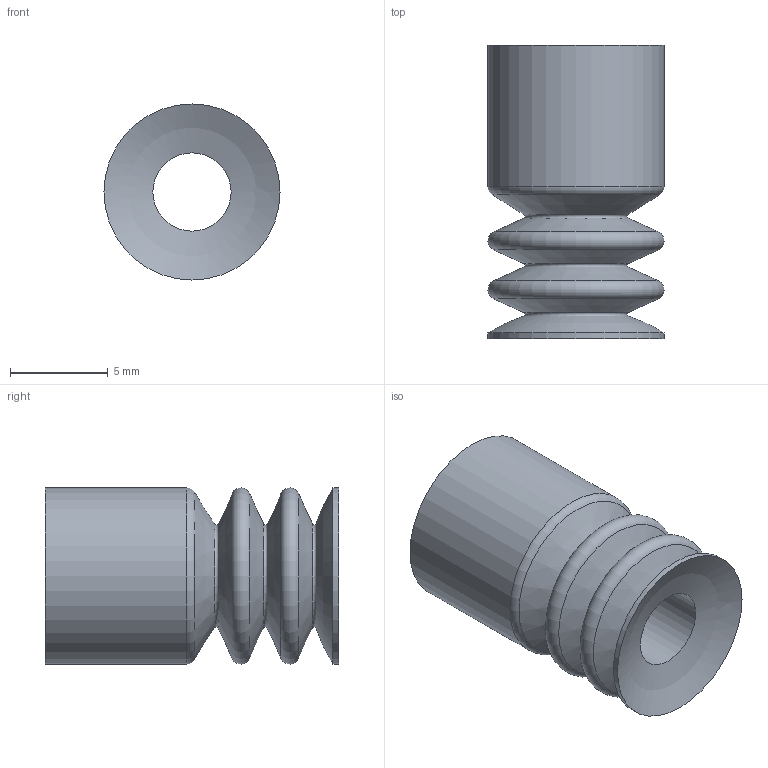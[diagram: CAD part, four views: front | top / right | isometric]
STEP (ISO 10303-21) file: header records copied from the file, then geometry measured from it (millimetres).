
FILE_DESCRIPTION(('STEP AP203'),'1');
FILE_NAME('_3D.stp','2025-02-13T07:32:59',(' '),(' '),'Spatial InterOp 3D',' ',' ');
FILE_SCHEMA(('CONFIG_CONTROL_DESIGN'));
Length unit declared in the file: millimetre
Products named in the file (1): 1
Bounding box: 9 x 15 x 9 mm (x, y, z)
Volume: 550 mm3; surface area: 837.2 mm2
Topology: 1 solids, 1 shells, 21 faces, 40 edges, 21 vertices
Faces by surface type: torus 8, cone 5, cylinder 4, sphere 2, plane 2
Full cylindrical faces by diameter (mm): 4 x1, 5 x1, 9 x2
Entity records: 472 total; most frequent: DIRECTION 86, CARTESIAN_POINT 64, AXIS2_PLACEMENT_3D 43, EDGE_LOOP 42, ORIENTED_EDGE 42, FACE_OUTER_BOUND 35, ADVANCED_FACE 21, EDGE_CURVE 21
